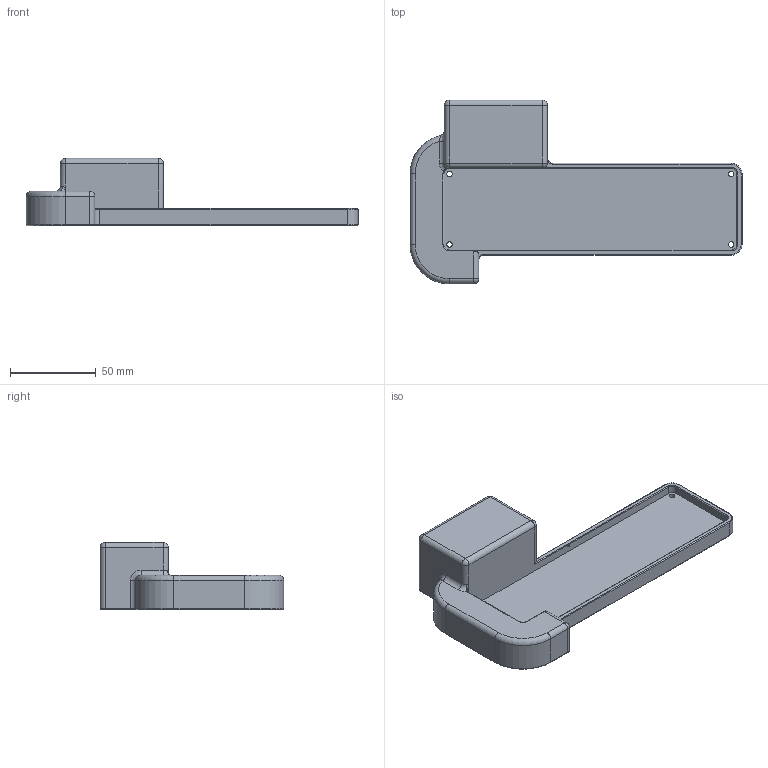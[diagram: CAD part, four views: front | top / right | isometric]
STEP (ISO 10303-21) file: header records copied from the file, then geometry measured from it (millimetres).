
FILE_DESCRIPTION((''),'2;1');
FILE_NAME('TMM0001','2023-02-19T04:03:10',('neo'),(''),'CREO PARAMETRIC BY PTC INC, 2017260','CREO PARAMETRIC BY PTC INC, 2017260','');
FILE_SCHEMA(('CONFIG_CONTROL_DESIGN'));
Length unit declared in the file: millimetre
Products named in the file (1): TMM0001
Bounding box: 193.3 x 107 x 39.2 mm (x, y, z)
Volume: 179762.1 mm3; surface area: 41973.4 mm2
Topology: 1 solids, 1 shells, 291 faces, 766 edges, 491 vertices
Faces by surface type: plane 202, cylinder 60, torus 21, sphere 5, bspline 3
Entity records: 9127 total; most frequent: CARTESIAN_POINT 1802, ORIENTED_EDGE 1532, DIRECTION 1471, EDGE_CURVE 766, VECTOR 617, LINE 617, VERTEX_POINT 491, AXIS2_PLACEMENT_3D 427
